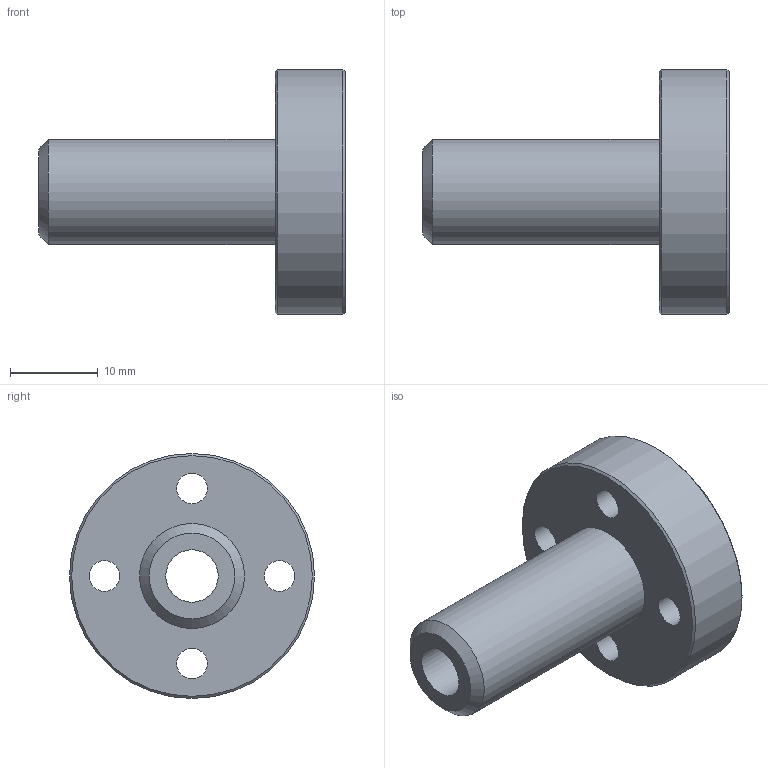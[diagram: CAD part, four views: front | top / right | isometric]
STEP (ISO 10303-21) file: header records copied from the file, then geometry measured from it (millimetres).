
FILE_DESCRIPTION(('STEP AP203'),'1');
FILE_NAME('//192.168.1.1/share/s-4 技術開発/s-4-4_CAD/s-4-4-3_見直し済み/PBC LINEAR修正済み/DFPJ/DFPJ_TOP/DFPJR/DFPJR06.step','2022-03-24T05:41:46',(' '),(' '),'Spatial InterOp 3D',' ',' ');
FILE_SCHEMA(('CONFIG_CONTROL_DESIGN'));
Length unit declared in the file: millimetre
Products named in the file (1): 1
Bounding box: 35 x 28 x 28 mm (x, y, z)
Volume: 6423.8 mm3; surface area: 3876.4 mm2
Topology: 1 solids, 1 shells, 21 faces, 43 edges, 29 vertices
Faces by surface type: cylinder 11, plane 7, cone 3
Full cylindrical faces by diameter (mm): 3.5 x4, 6 x5, 12 x1, 28 x1
Entity records: 528 total; most frequent: DIRECTION 94, CARTESIAN_POINT 72, EDGE_LOOP 50, ORIENTED_EDGE 50, AXIS2_PLACEMENT_3D 47, FACE_OUTER_BOUND 32, EDGE_CURVE 25, VERTEX_POINT 25
